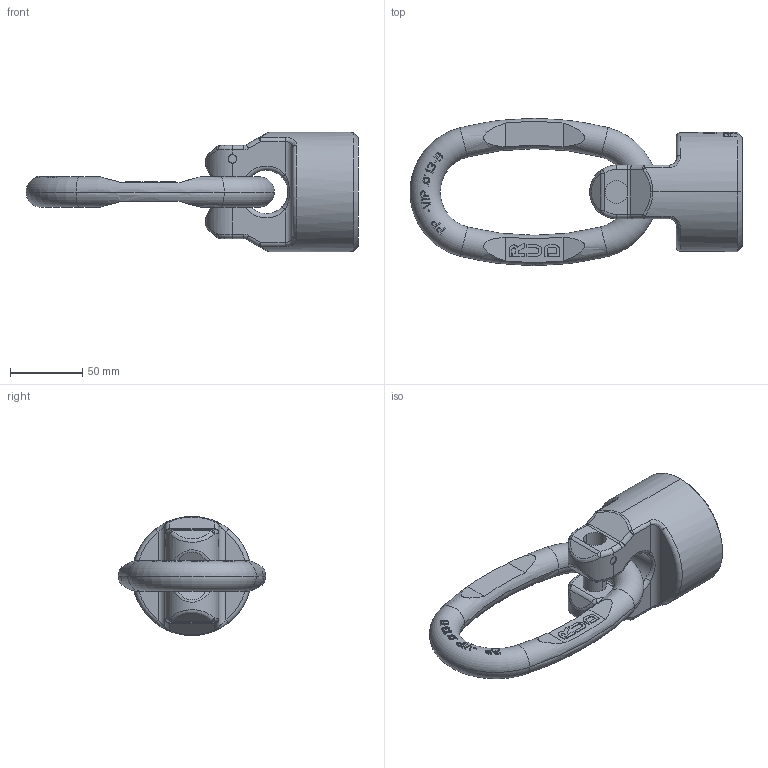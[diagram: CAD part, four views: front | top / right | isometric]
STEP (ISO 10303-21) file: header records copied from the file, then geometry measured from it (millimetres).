
FILE_DESCRIPTION((''),'2;1');
FILE_NAME('001-M31395-P-50_ASM','2018-04-26T',('Anja.Joas'),(''),'PRO/ENGINEER BY PARAMETRIC TECHNOLOGY CORPORATION, 2011490','PRO/ENGINEER BY PARAMETRIC TECHNOLOGY CORPORATION, 2011490','');
FILE_SCHEMA(('CONFIG_CONTROL_DESIGN'));
Length unit declared in the file: millimetre
Products named in the file (3): 001-M31395-P-20_AF0; 001-M31290-004; 001-M31395-P-50_ASM
Assembly tree (2 placements, depth 2):
  001-M31395-P-50_ASM
    001-M31395-P-20_AF0
    001-M31290-004
Bounding box: 230 x 102 x 82.5 mm (x, y, z)
Volume: 470342.6 mm3; surface area: 60586.9 mm2
Topology: 2 solids, 2 shells, 593 faces, 1579 edges, 1026 vertices
Faces by surface type: plane 464, cylinder 64, torus 32, bspline 26, sphere 4, cone 2, extrusion 1
Entity records: 20704 total; most frequent: CARTESIAN_POINT 6696, ORIENTED_EDGE 3158, DIRECTION 2492, EDGE_CURVE 1579, VERTEX_POINT 1026, VECTOR 842, LINE 841, AXIS2_PLACEMENT_3D 825
